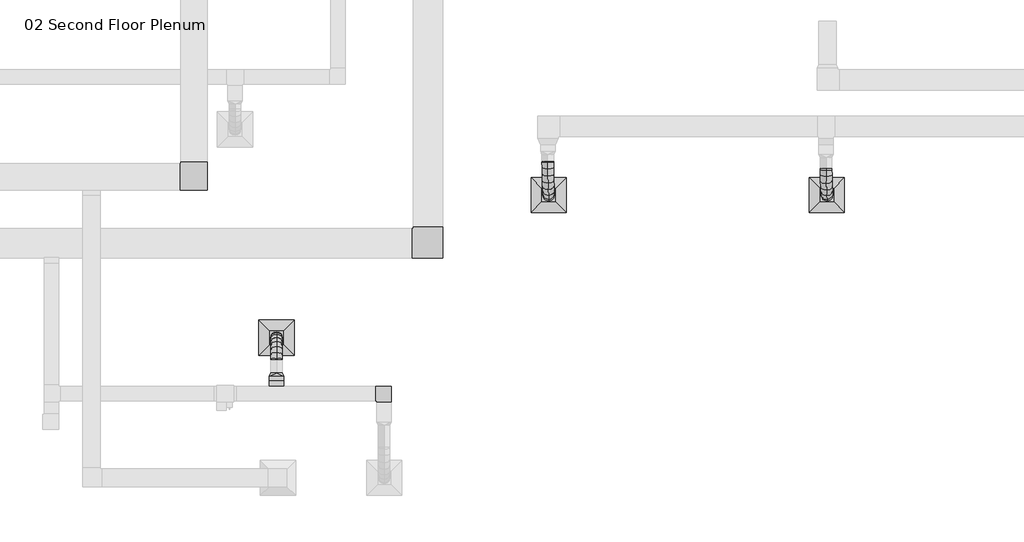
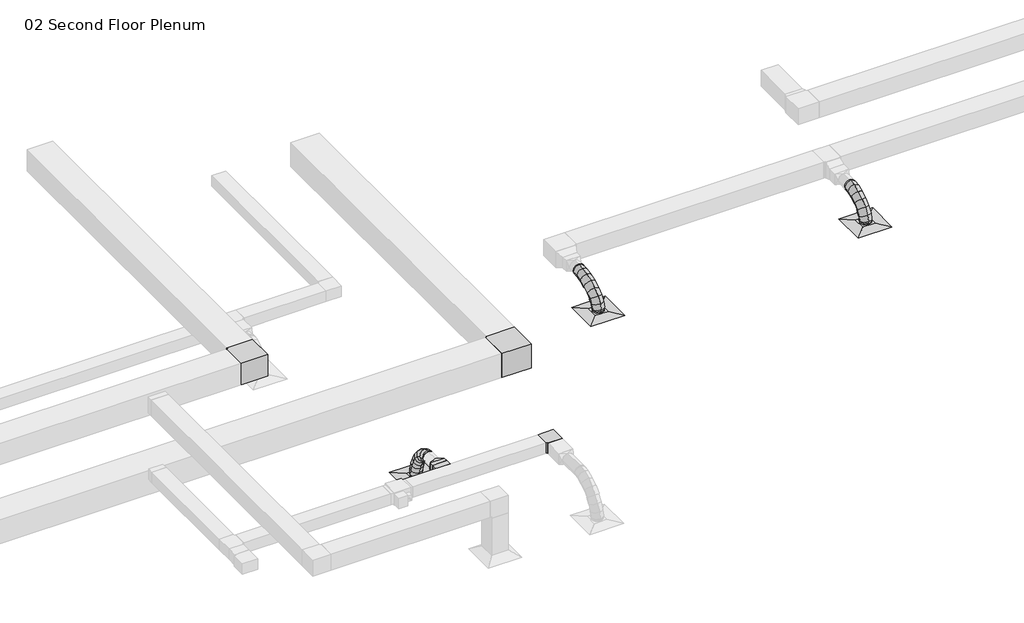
# One storey, part 3 of 12: 5 duct fittings, 4 duct segments, 3 air terminals.
"""IFC4 building model written with IfcOpenShell, lengths in millimetres."""

from ifc_helpers import new_model, si_unit, frame, origin, place, context, project, spatial, polyline, circle_curve, ellipse_curve, outline, extrude, transform, mapped, element, save
from ifc_brep_helpers import plane_surface, cylinder_surface, advanced_brep
from components import supply_diffuser_rectangular_face_round_neck_d30_6390248a, supply_diffuser_rectangular_face_round_neck_d30_79c6f163, rectangular_elbow_mitered_standard_f09b78ec, rectangular_elbow_mitered_standard_946096ac, rectangular_elbow_mitered_standard_3a774ab6, rectangular_takeoff_standard_c54ab2d1, rectangular_to_round_transition_angle_45_degree_e9430680

model = new_model("IFC4")

# Units and contexts
model_context = context("Model", 3, world=origin())
ifc_project = project(units=[si_unit("LENGTHUNIT", "METRE", prefix="MILLI")], contexts=[model_context])

# Site, building, storey
site = spatial("IfcSite", under=ifc_project)
building = spatial("IfcBuilding", under=site)
storey = spatial("IfcBuildingStorey", under=building, Name="02 Second Floor Plenum", Elevation=3048.0)

# Air terminals
placement = place(None, origin())
supply_diffuser_rectangular_face_round_neck_d30_shape = supply_diffuser_rectangular_face_round_neck_d30_6390248a(model_context)
element("IfcAirTerminal", 1, ObjectType="Supply Diffuser - Rectangular Face Round Neck : D30_SupplyDiffuser_24x24 8 Neck", at=placement, inside=storey, context=model_context, shape_type="MappedRepresentation", body=[
    mapped(supply_diffuser_rectangular_face_round_neck_d30_shape, transform((-6540.6685181, -2999.7828325, 3048.0), x_axis=(1.0, 0.0, 0.0), y_axis=(0.0, 1.0, 0.0), z_axis=(0.0, 0.0, 1.0))),
])
supply_diffuser_rectangular_face_round_neck_d30_2_shape = supply_diffuser_rectangular_face_round_neck_d30_79c6f163(model_context)
element("IfcAirTerminal", 2, ObjectType="Supply Diffuser - Rectangular Face Round Neck : D30_SupplyDiffuser_24x24 8 Neck", at=placement, inside=storey, context=model_context, shape_type="MappedRepresentation", body=[
    mapped(supply_diffuser_rectangular_face_round_neck_d30_2_shape, transform((3026.67093, -520.1078325, 3048.0), x_axis=(1.0, 0.0, 0.0), y_axis=(0.0, 1.0, 0.0), z_axis=(0.0, 0.0, 1.0))),
])
element("IfcAirTerminal", 3, ObjectType="Supply Diffuser - Rectangular Face Round Neck : D30_SupplyDiffuser_24x24 8 Neck", at=placement, inside=storey, context=model_context, shape_type="MappedRepresentation", body=[
    mapped(supply_diffuser_rectangular_face_round_neck_d30_2_shape, transform((-1812.02907, -520.1078325, 3048.0), x_axis=(1.0, 0.0, 0.0), y_axis=(0.0, 1.0, 0.0), z_axis=(0.0, 0.0, 1.0))),
])

# Duct fittings
rectangular_elbow_mitered_standard_shape = rectangular_elbow_mitered_standard_f09b78ec(model_context)
element("IfcDuctFitting", 4, ObjectType="Rectangular Elbow - Mitered : Standard", at=placement, inside=storey, context=model_context, shape_type="MappedRepresentation", body=[
    mapped(rectangular_elbow_mitered_standard_shape, transform((-4670.9653729, -3975.0664214, 3657.6), x_axis=(0.0, 1.0, 0.0), y_axis=(-1.0, 0.0, 0.0), z_axis=(0.0, 0.0, 1.0))),
])
rectangular_elbow_mitered_standard_2_shape = rectangular_elbow_mitered_standard_946096ac(model_context)
element("IfcDuctFitting", 5, ObjectType="Rectangular Elbow - Mitered : Standard", at=placement, inside=storey, context=model_context, shape_type="MappedRepresentation", body=[
    mapped(rectangular_elbow_mitered_standard_2_shape, transform((-3908.5142705, -1355.9265825, 3505.2), x_axis=(1.0, 0.0, 0.0), y_axis=(0.0, 1.0, 0.0), z_axis=(0.0, 0.0, 1.0))),
])
rectangular_elbow_mitered_standard_3_shape = rectangular_elbow_mitered_standard_3a774ab6(model_context)
element("IfcDuctFitting", 6, ObjectType="Rectangular Elbow - Mitered : Standard", at=placement, inside=storey, context=model_context, shape_type="MappedRepresentation", body=[
    mapped(rectangular_elbow_mitered_standard_3_shape, transform((-7972.5142705, -201.3156743, 4038.6), x_axis=(1.0, 0.0, 0.0), y_axis=(0.0, 1.0, 0.0), z_axis=(0.0, 0.0, 1.0))),
])
rectangular_takeoff_standard_shape = rectangular_takeoff_standard_c54ab2d1(model_context)
element("IfcDuctFitting", 7, ObjectType="Rectangular Takeoff : Standard", at=placement, inside=storey, context=model_context, shape_type="MappedRepresentation", body=[
    mapped(rectangular_takeoff_standard_shape, transform((-6540.6685181, -3848.0664214, 3657.6), x_axis=(0.0, 1.0, 0.0), y_axis=(1.0, 0.0, 0.0), z_axis=(0.0, 0.0, -1.0))),
])
rectangular_to_round_transition_angle_45_degree_shape = rectangular_to_round_transition_angle_45_degree_e9430680(model_context)
element("IfcDuctFitting", 8, ObjectType="Rectangular to Round Transition - Angle : 45 Degree", at=placement, inside=storey, context=model_context, shape_type="MappedRepresentation", body=[
    mapped(rectangular_to_round_transition_angle_45_degree_shape, transform((-6540.6685181, -3670.2664214, 3657.6), x_axis=(0.0, 1.0, 0.0), y_axis=(-1.0, 0.0, 0.0), z_axis=(0.0, 0.0, 1.0))),
])

# Duct segments
element("IfcDuctSegment", 9, ObjectType="Flex - Round", at=placement, inside=storey, context=model_context, shape_type="AdvancedBrep", body=[
    advanced_brep(
    [(-1723.12907, 65.9206694, 3505.2), (-1824.72907, 65.9206694, 3403.6), (-1926.32907, 65.9206694, 3505.2), (-1824.72907, 65.9206694, 3606.8), (-1723.12907, 56.9454167, 3505.2), (-1824.72907, 61.7055091, 3403.6), (-1926.32907, 56.2164159, 3505.2), (-1824.72907, 51.4563235, 3606.8), (-1710.4563242, -517.7546809, 3101.975), (-1809.6759184, -621.6805783, 3101.975), (-1913.6018157, -522.4609841, 3101.975), (-1814.3822216, -418.5350868, 3101.975), (-1722.4313128, -40.0515406, 3495.3900757), (-1824.1158959, -23.5333381, 3394.9792488), (-1925.6198301, -42.3767846, 3495.2286374), (-1823.9352469, -58.8949871, 3595.6394643), (-1720.6283417, -152.1060425, 3467.0039918), (-1822.5324897, -121.9419056, 3370.0500063), (-1923.7942297, -155.8376956, 3466.4862765), (-1821.8900818, -186.0018324, 3563.4402621), (-1718.1570723, -262.0076299, 3421.6020757), (-1820.3687228, -218.1683258, 3330.2974971), (-1921.3039831, -266.5832308, 3420.7357134), (-1819.0923326, -310.4225349, 3512.040292), (-1715.4596868, -361.635777, 3360.800032), (-1818.0786161, -302.7535984, 3278.6759666), (-1918.5955377, -366.6198768, 3359.684367), (-1815.9766084, -425.5020554, 3441.8084325), (-1712.979699, -442.8947524, 3286.2076099), (-1816.125392, -366.7527002, 3219.9274038), (-1916.1140094, -447.929326, 3285.045612), (-1812.9683165, -524.0713782, 3351.325818), (-1711.162406, -497.6643952, 3199.4210725), (-1814.829355, -405.8127093, 3158.0339393), (-1914.302731, -502.5177, 3198.5463085), (-1810.635782, -594.3693859, 3239.9334417), (-1710.4563242, -517.7546809, 3122.6753967), (-1814.3822216, -418.5350868, 3109.4339606), (-1913.6018157, -522.4609841, 3122.3621843), (-1809.6759184, -621.6805783, 3135.6036204)],
    [
        (0, 1, circle_curve(frame((-1824.72907, 65.9206694, 3505.2), z_axis=(0.0, 1.0, 0.0), x_axis=(1.0, 0.0, 0.0)), 101.6)),
        (1, 2, circle_curve(frame((-1824.72907, 65.9206694, 3505.2), z_axis=(0.0, 1.0, 0.0), x_axis=(1.0, 0.0, 0.0)), 101.6)),
        (2, 3, circle_curve(frame((-1824.72907, 65.9206694, 3505.2), z_axis=(0.0, 1.0, 0.0), x_axis=(1.0, 0.0, 0.0)), 101.6)),
        (3, 0, circle_curve(frame((-1824.72907, 65.9206694, 3505.2), z_axis=(0.0, 1.0, 0.0), x_axis=(1.0, 0.0, 0.0)), 101.6)),
        (0, 4),
        (4, 5, ellipse_curve(frame((-1824.72907, 56.5809163, 3505.2), z_axis=(-0.0035830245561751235, 0.9987239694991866, 0.0503745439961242), x_axis=(0.0708579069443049, 0.050501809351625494, -0.9962071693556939)), 101.7298103, 101.6)),
        (5, 1),
        (5, 6, ellipse_curve(frame((-1824.72907, 56.5809163, 3505.2), z_axis=(-0.0035830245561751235, 0.9987239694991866, 0.0503745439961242), x_axis=(0.0708579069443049, 0.050501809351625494, -0.9962071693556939)), 101.7298103, 101.6)),
        (6, 2),
        (6, 7, ellipse_curve(frame((-1824.72907, 56.5809163, 3505.2), z_axis=(-0.0035830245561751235, 0.9987239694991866, 0.0503745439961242), x_axis=(0.0708579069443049, 0.050501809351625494, -0.9962071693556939)), 101.7298103, 101.6)),
        (7, 3),
        (7, 4, ellipse_curve(frame((-1824.72907, 56.5809163, 3505.2), z_axis=(-0.0035830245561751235, 0.9987239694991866, 0.0503745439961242), x_axis=(0.0708579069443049, 0.050501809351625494, -0.9962071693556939)), 101.7298103, 101.6)),
        (8, 9, circle_curve(frame((-1812.02907, -520.1078325, 3101.975), z_axis=(0.0, 0.0, -1.0), x_axis=(0.9997317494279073, 0.023160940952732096, 0.0)), 101.6)),
        (9, 10, circle_curve(frame((-1812.02907, -520.1078325, 3101.975), z_axis=(0.0, 0.0, -1.0), x_axis=(0.9997317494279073, 0.023160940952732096, 0.0)), 101.6)),
        (10, 11, circle_curve(frame((-1812.02907, -520.1078325, 3101.975), z_axis=(0.0, 0.0, -1.0), x_axis=(0.9997317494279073, 0.023160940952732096, 0.0)), 101.6)),
        (11, 8, circle_curve(frame((-1812.02907, -520.1078325, 3101.975), z_axis=(0.0, 0.0, -1.0), x_axis=(0.9997317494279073, 0.023160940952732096, 0.0)), 101.6)),
        (4, 12),
        (12, 13, ellipse_curve(frame((-1824.0255714, -41.2141626, 3495.3093566), z_axis=(-0.011407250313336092, 0.9847588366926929, 0.17355088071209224), x_axis=(0.05724654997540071, 0.17392066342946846, -0.9830943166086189)), 101.8770918, 101.6)),
        (13, 5),
        (13, 14, ellipse_curve(frame((-1824.0255714, -41.2141626, 3495.3093566), z_axis=(-0.011407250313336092, 0.9847588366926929, 0.17355088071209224), x_axis=(0.05724654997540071, 0.17392066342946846, -0.9830943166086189)), 101.8770918, 101.6)),
        (14, 6),
        (14, 15, ellipse_curve(frame((-1824.0255714, -41.2141626, 3495.3093566), z_axis=(-0.011407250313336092, 0.9847588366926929, 0.17355088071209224), x_axis=(0.05724654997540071, 0.17392066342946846, -0.9830943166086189)), 101.8770918, 101.6)),
        (15, 7),
        (15, 12, ellipse_curve(frame((-1824.0255714, -41.2141626, 3495.3093566), z_axis=(-0.011407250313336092, 0.9847588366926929, 0.17355088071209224), x_axis=(0.05724654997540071, 0.17392066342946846, -0.9830943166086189)), 101.8770918, 101.6)),
        (12, 16),
        (16, 17, ellipse_curve(frame((-1822.2112857, -153.971869, 3466.7451342), z_axis=(-0.018233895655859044, 0.9490998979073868, 0.3144469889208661), x_axis=(0.03608996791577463, 0.31491909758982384, -0.9484321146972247)), 101.8629094, 101.6)),
        (17, 13),
        (17, 18, ellipse_curve(frame((-1822.2112857, -153.971869, 3466.7451342), z_axis=(-0.018233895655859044, 0.9490998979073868, 0.3144469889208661), x_axis=(0.03608996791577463, 0.31491909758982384, -0.9484321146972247)), 101.8629094, 101.6)),
        (18, 14),
        (18, 19, ellipse_curve(frame((-1822.2112857, -153.971869, 3466.7451342), z_axis=(-0.018233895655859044, 0.9490998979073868, 0.3144469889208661), x_axis=(0.03608996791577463, 0.31491909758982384, -0.9484321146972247)), 101.8629094, 101.6)),
        (19, 15),
        (19, 16, ellipse_curve(frame((-1822.2112857, -153.971869, 3466.7451342), z_axis=(-0.018233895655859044, 0.9490998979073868, 0.3144469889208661), x_axis=(0.03608996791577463, 0.31491909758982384, -0.9484321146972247)), 101.8629094, 101.6)),
        (16, 20),
        (20, 21, ellipse_curve(frame((-1819.7305277, -264.2954303, 3421.1688946), z_axis=(-0.02200836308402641, 0.8914185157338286, 0.45264628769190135), x_axis=(0.014911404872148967, 0.45299827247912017, -0.8913866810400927)), 101.9105316, 101.6)),
        (21, 17),
        (21, 22, ellipse_curve(frame((-1819.7305277, -264.2954303, 3421.1688946), z_axis=(-0.02200836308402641, 0.8914185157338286, 0.45264628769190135), x_axis=(0.014911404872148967, 0.45299827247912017, -0.8913866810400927)), 101.9105316, 101.6)),
        (22, 18),
        (22, 23, ellipse_curve(frame((-1819.7305277, -264.2954303, 3421.1688946), z_axis=(-0.02200836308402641, 0.8914185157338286, 0.45264628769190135), x_axis=(0.014911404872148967, 0.45299827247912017, -0.8913866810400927)), 101.9105316, 101.6)),
        (23, 19),
        (23, 20, ellipse_curve(frame((-1819.7305277, -264.2954303, 3421.1688946), z_axis=(-0.02200836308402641, 0.8914185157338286, 0.45264628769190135), x_axis=(0.014911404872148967, 0.45299827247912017, -0.8913866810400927)), 101.9105316, 101.6)),
        (20, 24),
        (24, 25, ellipse_curve(frame((-1817.0276122, -364.1278269, 3360.2421995), z_axis=(-0.022899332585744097, 0.7987093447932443, 0.6012811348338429), x_axis=(-0.003226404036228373, 0.6013766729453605, -0.7989591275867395)), 102.0830831, 101.6)),
        (25, 21),
        (25, 26, ellipse_curve(frame((-1817.0276122, -364.1278269, 3360.2421995), z_axis=(-0.022899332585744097, 0.7987093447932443, 0.6012811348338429), x_axis=(-0.003226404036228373, 0.6013766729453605, -0.7989591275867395)), 102.0830831, 101.6)),
        (26, 22),
        (26, 27, ellipse_curve(frame((-1817.0276122, -364.1278269, 3360.2421995), z_axis=(-0.022899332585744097, 0.7987093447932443, 0.6012811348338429), x_axis=(-0.003226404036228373, 0.6013766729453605, -0.7989591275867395)), 102.0830831, 101.6)),
        (27, 23),
        (27, 24, ellipse_curve(frame((-1817.0276122, -364.1278269, 3360.2421995), z_axis=(-0.022899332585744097, 0.7987093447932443, 0.6012811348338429), x_axis=(-0.003226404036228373, 0.6013766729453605, -0.7989591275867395)), 102.0830831, 101.6)),
        (24, 28),
        (28, 29, ellipse_curve(frame((-1814.5468542, -445.4120392, 3285.6266109), z_axis=(-0.020269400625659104, 0.6406750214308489, 0.767544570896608), x_axis=(-0.018048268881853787, 0.7673427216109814, -0.6409831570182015)), 102.4996123, 101.6)),
        (29, 25),
        (29, 30, ellipse_curve(frame((-1814.5468542, -445.4120392, 3285.6266109), z_axis=(-0.020269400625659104, 0.6406750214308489, 0.767544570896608), x_axis=(-0.018048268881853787, 0.7673427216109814, -0.6409831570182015)), 102.4996123, 101.6)),
        (30, 26),
        (30, 31, ellipse_curve(frame((-1814.5468542, -445.4120392, 3285.6266109), z_axis=(-0.020269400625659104, 0.6406750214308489, 0.767544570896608), x_axis=(-0.018048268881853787, 0.7673427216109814, -0.6409831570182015)), 102.4996123, 101.6)),
        (31, 27),
        (31, 28, ellipse_curve(frame((-1814.5468542, -445.4120392, 3285.6266109), z_axis=(-0.020269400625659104, 0.6406750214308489, 0.767544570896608), x_axis=(-0.018048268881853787, 0.7673427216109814, -0.6409831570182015)), 102.4996123, 101.6)),
        (28, 32),
        (32, 33, ellipse_curve(frame((-1812.7325685, -500.0910476, 3198.9836905), z_axis=(-0.013461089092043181, 0.39810403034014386, 0.9172415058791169), x_axis=(-0.028792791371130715, 0.916789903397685, -0.3983305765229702)), 102.8090539, 101.6)),
        (33, 29),
        (33, 34, ellipse_curve(frame((-1812.7325685, -500.0910476, 3198.9836905), z_axis=(-0.013461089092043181, 0.39810403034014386, 0.9172415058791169), x_axis=(-0.028792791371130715, 0.916789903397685, -0.3983305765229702)), 102.8090539, 101.6)),
        (34, 30),
        (34, 35, ellipse_curve(frame((-1812.7325685, -500.0910476, 3198.9836905), z_axis=(-0.013461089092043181, 0.39810403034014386, 0.9172415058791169), x_axis=(-0.028792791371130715, 0.916789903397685, -0.3983305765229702)), 102.8090539, 101.6)),
        (35, 31),
        (35, 32, ellipse_curve(frame((-1812.7325685, -500.0910476, 3198.9836905), z_axis=(-0.013461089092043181, 0.39810403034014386, 0.9172415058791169), x_axis=(-0.028792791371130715, 0.916789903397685, -0.3983305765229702)), 102.8090539, 101.6)),
        (32, 36),
        (36, 37, ellipse_curve(frame((-1812.02907, -520.1078325, 3122.5187905), z_axis=(-0.004486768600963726, 0.12766292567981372, 0.9918074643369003), x_axis=(-0.03483599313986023, 0.9911954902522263, -0.12774174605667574)), 102.4392371, 101.6)),
        (37, 33),
        (37, 38, ellipse_curve(frame((-1812.02907, -520.1078325, 3122.5187905), z_axis=(-0.004486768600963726, 0.12766292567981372, 0.9918074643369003), x_axis=(-0.03483599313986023, 0.9911954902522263, -0.12774174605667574)), 102.4392371, 101.6)),
        (38, 34),
        (38, 39, ellipse_curve(frame((-1812.02907, -520.1078325, 3122.5187905), z_axis=(-0.004486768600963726, 0.12766292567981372, 0.9918074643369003), x_axis=(-0.03483599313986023, 0.9911954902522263, -0.12774174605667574)), 102.4392371, 101.6)),
        (39, 35),
        (39, 36, ellipse_curve(frame((-1812.02907, -520.1078325, 3122.5187905), z_axis=(-0.004486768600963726, 0.12766292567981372, 0.9918074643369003), x_axis=(-0.03483599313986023, 0.9911954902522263, -0.12774174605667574)), 102.4392371, 101.6)),
        (36, 8),
        (11, 37),
        (10, 38),
        (9, 39),
    ],
    [
        plane_surface(frame((-1926.32907, 65.9206694, 3505.2), z_axis=(0.0, 1.0, 0.0), x_axis=(0.0, 0.0, -1.0))),
        cylinder_surface(frame((-1824.72907, 65.9206694, 3505.2), z_axis=(0.0, 1.0, 0.0), x_axis=(1.0, 0.0, 0.0)), 101.6),
        plane_surface(frame((-1812.02907, -621.7078325, 3101.975), z_axis=(0.0, 0.0, -1.0), x_axis=(-1.0, 0.0, 0.0))),
        cylinder_surface(frame((-1824.72907, 56.5809163, 3505.2), z_axis=(-0.007156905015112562, 0.9948991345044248, 0.10062052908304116), x_axis=(0.9999743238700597, 0.007156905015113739, 0.00036098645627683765)), 101.6),
        cylinder_surface(frame((-1824.0255714, -41.2141626, 3495.3093566), z_axis=(-0.015595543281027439, 0.9692617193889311, 0.24553716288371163), x_axis=(0.9998763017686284, 0.015618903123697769, 0.001852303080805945)), 101.6),
        cylinder_surface(frame((-1822.2112857, -153.971869, 3466.7451342), z_axis=(-0.020778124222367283, 0.9240387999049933, 0.3817336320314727), x_axis=(0.9997732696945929, 0.020981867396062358, 0.003629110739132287)), 101.6),
        cylinder_surface(frame((-1819.7305277, -264.2954303, 3421.1688946), z_axis=(-0.023104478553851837, 0.8533657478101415, 0.5208004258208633), x_axis=(0.9997003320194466, 0.023936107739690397, 0.005129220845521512)), 101.6),
        cylinder_surface(frame((-1817.0276122, -364.1278269, 3360.2421995), z_axis=(-0.02247745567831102, 0.7364935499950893, 0.6760710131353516), x_axis=(0.9996687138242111, 0.02503892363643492, 0.005959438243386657)), 101.6),
        cylinder_surface(frame((-1814.5468542, -445.4120392, 3285.6266109), z_axis=(-0.017705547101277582, 0.5336104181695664, 0.8455450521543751), x_axis=(0.9996830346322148, 0.02458627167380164, 0.0054171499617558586)), 101.6),
        cylinder_surface(frame((-1812.7325685, -500.0910476, 3198.9836905), z_axis=(-0.008900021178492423, 0.2532340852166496, 0.9673640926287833), x_axis=(0.9997180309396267, 0.023551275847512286, 0.00303249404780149)), 101.6),
        cylinder_surface(frame((-1812.02907, -520.1078325, 3122.5187905), z_axis=(0.0, 0.0, 1.0), x_axis=(0.9997317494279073, 0.023160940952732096, 0.0)), 101.6),
    ],
    [
        (0, [[1, 2, 3, 4]]),
        (1, [[-1, 5, 6, 7]]),
        (1, [[-2, -7, 8, 9]]),
        (1, [[-3, -9, 10, 11]]),
        (1, [[-4, -11, 12, -5]]),
        (2, [[13, 14, 15, 16]]),
        (3, [[-6, 17, 18, 19]]),
        (3, [[-8, -19, 20, 21]]),
        (3, [[-10, -21, 22, 23]]),
        (3, [[-12, -23, 24, -17]]),
        (4, [[-18, 25, 26, 27]]),
        (4, [[-20, -27, 28, 29]]),
        (4, [[-22, -29, 30, 31]]),
        (4, [[-24, -31, 32, -25]]),
        (5, [[-26, 33, 34, 35]]),
        (5, [[-28, -35, 36, 37]]),
        (5, [[-30, -37, 38, 39]]),
        (5, [[-32, -39, 40, -33]]),
        (6, [[-34, 41, 42, 43]]),
        (6, [[-36, -43, 44, 45]]),
        (6, [[-38, -45, 46, 47]]),
        (6, [[-40, -47, 48, -41]]),
        (7, [[-42, 49, 50, 51]]),
        (7, [[-44, -51, 52, 53]]),
        (7, [[-46, -53, 54, 55]]),
        (7, [[-48, -55, 56, -49]]),
        (8, [[-50, 57, 58, 59]]),
        (8, [[-52, -59, 60, 61]]),
        (8, [[-54, -61, 62, 63]]),
        (8, [[-56, -63, 64, -57]]),
        (9, [[-58, 65, 66, 67]]),
        (9, [[-60, -67, 68, 69]]),
        (9, [[-62, -69, 70, 71]]),
        (9, [[-64, -71, 72, -65]]),
        (10, [[-66, 73, -16, 74]]),
        (10, [[-68, -74, -15, 75]]),
        (10, [[-70, -75, -14, 76]]),
        (10, [[-72, -76, -13, -73]]),
    ],
),
])
element("IfcDuctSegment", 10, ObjectType="Flex - Round", at=placement, inside=storey, context=model_context, shape_type="AdvancedBrep", body=[
    advanced_brep(
    [(3113.8148996, -61.0793306, 3505.2), (3012.2148996, -61.0793306, 3403.6), (2910.6148996, -61.0793306, 3505.2), (3012.2148996, -61.0793306, 3606.8), (3113.8148996, -75.5580526, 3505.2), (3012.2148996, -67.3200121, 3403.6), (2910.6148996, -76.762289, 3505.2), (3012.2148996, -85.0003296, 3606.8), (3128.2244262, -517.0341678, 3101.975), (3029.7445947, -621.6613287, 3101.975), (2925.1174339, -523.1814972, 3101.975), (3023.5972653, -418.5543363, 3101.975), (3114.8711778, -163.9971958, 3489.6919695), (3013.0496484, -137.2111339, 3391.3444126), (2911.7002554, -167.6360159, 3489.265059), (3013.5217848, -194.4220778, 3587.6126159), (3117.5239239, -267.8570621, 3446.5393821), (3015.2139655, -221.9481125, 3356.1371665), (2914.4015947, -273.3983977, 3445.3219982), (3016.7115531, -319.3073473, 3535.7242138), (3120.9872244, -363.750204, 3380.9095721), (3018.0665771, -300.9322747, 3302.0799581), (2917.8986052, -370.2249133, 3379.053382), (3020.8192525, -433.0428427, 3457.882996), (3124.4634029, -443.0428775, 3298.0786837), (3020.8476665, -364.3697563, 3235.8117553), (2921.3827377, -449.6990187, 3296.0329657), (3024.9984741, -528.3721399, 3358.299894), (3127.1469597, -497.0557958, 3203.3716471), (3022.8670958, -405.0155399, 3164.5428471), (2924.0532662, -503.4497123, 3201.7857178), (3028.3331301, -595.4899682, 3240.6145178), (3128.2244262, -517.0341678, 3121.9653393), (3023.5972653, -418.5543363, 3109.3760183), (2925.1174339, -523.1814972, 3121.3841838), (3029.7445947, -621.6613287, 3133.9735047)],
    [
        (0, 1, circle_curve(frame((3012.2148996, -61.0793306, 3505.2), z_axis=(0.0, 1.0, 0.0), x_axis=(1.0, 0.0, 0.0)), 101.6)),
        (1, 2, circle_curve(frame((3012.2148996, -61.0793306, 3505.2), z_axis=(0.0, 1.0, 0.0), x_axis=(1.0, 0.0, 0.0)), 101.6)),
        (2, 3, circle_curve(frame((3012.2148996, -61.0793306, 3505.2), z_axis=(0.0, 1.0, 0.0), x_axis=(1.0, 0.0, 0.0)), 101.6)),
        (3, 0, circle_curve(frame((3012.2148996, -61.0793306, 3505.2), z_axis=(0.0, 1.0, 0.0), x_axis=(1.0, 0.0, 0.0)), 101.6)),
        (0, 4),
        (4, 5, ellipse_curve(frame((3012.2148996, -76.1601708, 3505.2), z_axis=(-0.005903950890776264, 0.9962186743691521, 0.08668042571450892), x_axis=(0.06769729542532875, 0.08688125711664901, -0.9939158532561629)), 101.9856409, 101.6)),
        (5, 1),
        (5, 6, ellipse_curve(frame((3012.2148996, -76.1601708, 3505.2), z_axis=(-0.005903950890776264, 0.9962186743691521, 0.08668042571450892), x_axis=(0.06769729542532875, 0.08688125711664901, -0.9939158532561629)), 101.9856409, 101.6)),
        (6, 2),
        (6, 7, ellipse_curve(frame((3012.2148996, -76.1601708, 3505.2), z_axis=(-0.005903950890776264, 0.9962186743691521, 0.08668042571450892), x_axis=(0.06769729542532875, 0.08688125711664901, -0.9939158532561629)), 101.9856409, 101.6)),
        (7, 3),
        (7, 4, ellipse_curve(frame((3012.2148996, -76.1601708, 3505.2), z_axis=(-0.005903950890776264, 0.9962186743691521, 0.08668042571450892), x_axis=(0.06769729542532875, 0.08688125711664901, -0.9939158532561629)), 101.9856409, 101.6)),
        (8, 9, circle_curve(frame((3026.67093, -520.1078325, 3101.975), z_axis=(0.0, 0.0, -1.0), x_axis=(0.9995422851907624, 0.030252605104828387, 0.0)), 101.6)),
        (9, 10, circle_curve(frame((3026.67093, -520.1078325, 3101.975), z_axis=(0.0, 0.0, -1.0), x_axis=(0.9995422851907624, 0.030252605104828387, 0.0)), 101.6)),
        (10, 11, circle_curve(frame((3026.67093, -520.1078325, 3101.975), z_axis=(0.0, 0.0, -1.0), x_axis=(0.9995422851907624, 0.030252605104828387, 0.0)), 101.6)),
        (11, 8, circle_curve(frame((3026.67093, -520.1078325, 3101.975), z_axis=(0.0, 0.0, -1.0), x_axis=(0.9995422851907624, 0.030252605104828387, 0.0)), 101.6)),
        (4, 12),
        (12, 13, ellipse_curve(frame((3013.2857166, -165.8166058, 3489.4785143), z_axis=(-0.01777962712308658, 0.9598813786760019, 0.2798421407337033), x_axis=(0.05370485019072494, 0.2803991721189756, -0.9583799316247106)), 102.2205087, 101.6)),
        (13, 5),
        (13, 14, ellipse_curve(frame((3013.2857166, -165.8166058, 3489.4785143), z_axis=(-0.01777962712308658, 0.9598813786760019, 0.2798421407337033), x_axis=(0.05370485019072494, 0.2803991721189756, -0.9583799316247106)), 102.2205087, 101.6)),
        (14, 6),
        (14, 15, ellipse_curve(frame((3013.2857166, -165.8166058, 3489.4785143), z_axis=(-0.01777962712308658, 0.9598813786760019, 0.2798421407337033), x_axis=(0.05370485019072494, 0.2803991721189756, -0.9583799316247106)), 102.2205087, 101.6)),
        (15, 7),
        (15, 12, ellipse_curve(frame((3013.2857166, -165.8166058, 3489.4785143), z_axis=(-0.01777962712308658, 0.9598813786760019, 0.2798421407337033), x_axis=(0.05370485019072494, 0.2803991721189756, -0.9583799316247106)), 102.2205087, 101.6)),
        (12, 16),
        (16, 17, ellipse_curve(frame((3015.9627593, -270.6277299, 3445.9306901), z_axis=(-0.02682836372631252, 0.8787117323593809, 0.47659829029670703), x_axis=(0.030142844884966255, 0.4772642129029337, -0.8782427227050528)), 102.1435264, 101.6)),
        (17, 13),
        (17, 18, ellipse_curve(frame((3015.9627593, -270.6277299, 3445.9306901), z_axis=(-0.02682836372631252, 0.8787117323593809, 0.47659829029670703), x_axis=(0.030142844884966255, 0.4772642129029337, -0.8782427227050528)), 102.1435264, 101.6)),
        (18, 14),
        (18, 19, ellipse_curve(frame((3015.9627593, -270.6277299, 3445.9306901), z_axis=(-0.02682836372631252, 0.8787117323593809, 0.47659829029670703), x_axis=(0.030142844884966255, 0.4772642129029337, -0.8782427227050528)), 102.1435264, 101.6)),
        (19, 15),
        (19, 16, ellipse_curve(frame((3015.9627593, -270.6277299, 3445.9306901), z_axis=(-0.02682836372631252, 0.8787117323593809, 0.47659829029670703), x_axis=(0.030142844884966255, 0.4772642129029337, -0.8782427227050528)), 102.1435264, 101.6)),
        (16, 20),
        (20, 21, ellipse_curve(frame((3019.4429148, -366.9875587, 3379.9814771), z_axis=(-0.030207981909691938, 0.7621052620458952, 0.6467480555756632), x_axis=(0.0024722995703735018, 0.6470983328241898, -0.7624025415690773)), 102.1463173, 101.6)),
        (21, 17),
        (21, 22, ellipse_curve(frame((3019.4429148, -366.9875587, 3379.9814771), z_axis=(-0.030207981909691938, 0.7621052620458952, 0.6467480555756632), x_axis=(0.0024722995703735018, 0.6470983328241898, -0.7624025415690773)), 102.1463173, 101.6)),
        (22, 18),
        (22, 23, ellipse_curve(frame((3019.4429148, -366.9875587, 3379.9814771), z_axis=(-0.030207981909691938, 0.7621052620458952, 0.6467480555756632), x_axis=(0.0024722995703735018, 0.6470983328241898, -0.7624025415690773)), 102.1463173, 101.6)),
        (23, 19),
        (23, 20, ellipse_curve(frame((3019.4429148, -366.9875587, 3379.9814771), z_axis=(-0.030207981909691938, 0.7621052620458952, 0.6467480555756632), x_axis=(0.0024722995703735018, 0.6470983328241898, -0.7624025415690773)), 102.1463173, 101.6)),
        (20, 24),
        (24, 25, ellipse_curve(frame((3022.9230703, -446.3709481, 3297.0558247), z_axis=(-0.027661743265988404, 0.5977143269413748, 0.8012318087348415), x_axis=(-0.023282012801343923, 0.8009358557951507, -0.5982973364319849)), 102.3686487, 101.6)),
        (25, 21),
        (25, 26, ellipse_curve(frame((3022.9230703, -446.3709481, 3297.0558247), z_axis=(-0.027661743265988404, 0.5977143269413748, 0.8012318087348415), x_axis=(-0.023282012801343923, 0.8009358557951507, -0.5982973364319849)), 102.3686487, 101.6)),
        (26, 22),
        (26, 27, ellipse_curve(frame((3022.9230703, -446.3709481, 3297.0558247), z_axis=(-0.027661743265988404, 0.5977143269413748, 0.8012318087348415), x_axis=(-0.023282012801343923, 0.8009358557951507, -0.5982973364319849)), 102.3686487, 101.6)),
        (27, 23),
        (27, 24, ellipse_curve(frame((3022.9230703, -446.3709481, 3297.0558247), z_axis=(-0.027661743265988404, 0.5977143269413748, 0.8012318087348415), x_axis=(-0.023282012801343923, 0.8009358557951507, -0.5982973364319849)), 102.3686487, 101.6)),
        (24, 28),
        (28, 29, ellipse_curve(frame((3025.600113, -500.2527541, 3202.5786825), z_axis=(-0.018911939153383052, 0.37035979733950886, 0.9286958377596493), x_axis=(-0.04243733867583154, 0.9277275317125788, -0.3708378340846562)), 102.5883645, 101.6)),
        (29, 25),
        (29, 30, ellipse_curve(frame((3025.600113, -500.2527541, 3202.5786825), z_axis=(-0.018911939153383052, 0.37035979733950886, 0.9286958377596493), x_axis=(-0.04243733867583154, 0.9277275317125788, -0.3708378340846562)), 102.5883645, 101.6)),
        (30, 26),
        (30, 31, ellipse_curve(frame((3025.600113, -500.2527541, 3202.5786825), z_axis=(-0.018911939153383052, 0.37035979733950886, 0.9286958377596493), x_axis=(-0.04243733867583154, 0.9277275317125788, -0.3708378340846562)), 102.5883645, 101.6)),
        (31, 27),
        (31, 28, ellipse_curve(frame((3025.600113, -500.2527541, 3202.5786825), z_axis=(-0.018911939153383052, 0.37035979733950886, 0.9286958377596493), x_axis=(-0.04243733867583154, 0.9277275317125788, -0.3708378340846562)), 102.5883645, 101.6)),
        (28, 32),
        (32, 33, ellipse_curve(frame((3026.67093, -520.1078325, 3121.6747615), z_axis=(-0.006473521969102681, 0.12003197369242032, 0.9927489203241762), x_axis=(-0.05346288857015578, 0.991308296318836, -0.12020641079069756)), 102.3420907, 101.6)),
        (33, 29),
        (33, 34, ellipse_curve(frame((3026.67093, -520.1078325, 3121.6747615), z_axis=(-0.006473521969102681, 0.12003197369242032, 0.9927489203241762), x_axis=(-0.05346288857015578, 0.991308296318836, -0.12020641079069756)), 102.3420907, 101.6)),
        (34, 30),
        (34, 35, ellipse_curve(frame((3026.67093, -520.1078325, 3121.6747615), z_axis=(-0.006473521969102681, 0.12003197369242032, 0.9927489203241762), x_axis=(-0.05346288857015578, 0.991308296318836, -0.12020641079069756)), 102.3420907, 101.6)),
        (35, 31),
        (35, 32, ellipse_curve(frame((3026.67093, -520.1078325, 3121.6747615), z_axis=(-0.006473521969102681, 0.12003197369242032, 0.9927489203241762), x_axis=(-0.05346288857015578, 0.991308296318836, -0.12020641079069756)), 102.3420907, 101.6)),
        (32, 8),
        (11, 33),
        (10, 34),
        (9, 35),
    ],
    [
        plane_surface(frame((2910.6148996, -61.0793306, 3505.2), z_axis=(0.0, 1.0, 0.0), x_axis=(0.0, 0.0, -1.0))),
        cylinder_surface(frame((3012.2148996, -61.0793306, 3505.2), z_axis=(0.0, 1.0, 0.0), x_axis=(1.0, 0.0, 0.0)), 101.6),
        plane_surface(frame((3026.67093, -621.7078325, 3101.975), z_axis=(0.0, 0.0, -1.0), x_axis=(-1.0, 0.0, 0.0))),
        cylinder_surface(frame((3012.2148996, -76.1601708, 3505.2), z_axis=(-0.01176325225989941, 0.9849032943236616, 0.1727053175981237), x_axis=(0.9999302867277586, 0.01176325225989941, 0.0010235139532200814)), 101.6),
        cylinder_surface(frame((3013.2857166, -165.8166058, 3489.4785143), z_axis=(-0.023580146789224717, 0.9232059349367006, 0.3835815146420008), x_axis=(0.999709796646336, 0.02366700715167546, 0.004493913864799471)), 101.6),
        cylinder_surface(frame((3015.9627593, -270.6277299, 3445.9306901), z_axis=(-0.02979106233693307, 0.8248659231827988, 0.5645429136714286), x_axis=(0.9995014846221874, 0.03048986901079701, 0.008194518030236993)), 101.6),
        cylinder_surface(frame((3019.4429148, -366.9875587, 3379.9814771), z_axis=(-0.030301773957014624, 0.6911925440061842, 0.7220350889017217), x_axis=(0.9994013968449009, 0.03301494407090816, 0.010337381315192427)), 101.6),
        cylinder_surface(frame((3022.9230703, -446.3709481, 3297.0558247), z_axis=(-0.024606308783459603, 0.49526007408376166, 0.8683962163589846), x_axis=(0.9994219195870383, 0.03257148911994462, 0.009742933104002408)), 101.6),
        cylinder_surface(frame((3025.600113, -500.2527541, 3202.5786825), z_axis=(-0.012853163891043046, 0.2383232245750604, 0.9711008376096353), x_axis=(0.9995055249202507, 0.030934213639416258, 0.005637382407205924)), 101.6),
        cylinder_surface(frame((3026.67093, -520.1078325, 3121.6747615), z_axis=(0.0, 0.0, 1.0), x_axis=(0.9995422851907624, 0.030252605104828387, 0.0)), 101.6),
    ],
    [
        (0, [[1, 2, 3, 4]]),
        (1, [[-1, 5, 6, 7]]),
        (1, [[-2, -7, 8, 9]]),
        (1, [[-3, -9, 10, 11]]),
        (1, [[-4, -11, 12, -5]]),
        (2, [[13, 14, 15, 16]]),
        (3, [[-6, 17, 18, 19]]),
        (3, [[-8, -19, 20, 21]]),
        (3, [[-10, -21, 22, 23]]),
        (3, [[-12, -23, 24, -17]]),
        (4, [[-18, 25, 26, 27]]),
        (4, [[-20, -27, 28, 29]]),
        (4, [[-22, -29, 30, 31]]),
        (4, [[-24, -31, 32, -25]]),
        (5, [[-26, 33, 34, 35]]),
        (5, [[-28, -35, 36, 37]]),
        (5, [[-30, -37, 38, 39]]),
        (5, [[-32, -39, 40, -33]]),
        (6, [[-34, 41, 42, 43]]),
        (6, [[-36, -43, 44, 45]]),
        (6, [[-38, -45, 46, 47]]),
        (6, [[-40, -47, 48, -41]]),
        (7, [[-42, 49, 50, 51]]),
        (7, [[-44, -51, 52, 53]]),
        (7, [[-46, -53, 54, 55]]),
        (7, [[-48, -55, 56, -49]]),
        (8, [[-50, 57, 58, 59]]),
        (8, [[-52, -59, 60, 61]]),
        (8, [[-54, -61, 62, 63]]),
        (8, [[-56, -63, 64, -57]]),
        (9, [[-58, 65, -16, 66]]),
        (9, [[-60, -66, -15, 67]]),
        (9, [[-62, -67, -14, 68]]),
        (9, [[-64, -68, -13, -65]]),
    ],
),
])
element("IfcDuctSegment", 11, ObjectType="Flex - Round", at=placement, inside=storey, context=model_context, shape_type="AdvancedBrep", body=[
    advanced_brep(
    [(-6642.2685181, -3390.8664214, 3657.6), (-6540.6685181, -3390.8664214, 3556.0), (-6439.0685181, -3390.8664214, 3657.6), (-6540.6685181, -3390.8664214, 3759.2), (-6642.2685181, -3370.6352492, 3657.6), (-6540.6685181, -3383.6130019, 3556.0), (-6439.0685181, -3370.6352492, 3657.6), (-6540.6685181, -3357.6574964, 3759.2), (-6642.2685181, -2999.7828325, 3101.975), (-6540.6685181, -2898.1828325, 3101.975), (-6439.0685181, -2999.7828325, 3101.975), (-6540.6685181, -3101.3828325, 3101.975), (-6642.2685181, -3297.8893421, 3638.7075316), (-6540.6685181, -3338.2526965, 3544.2197065), (-6439.0685181, -3297.8893421, 3638.7075316), (-6540.6685181, -3257.5259877, 3733.1953567), (-6642.2685181, -3214.2872081, 3587.0655815), (-6540.6685181, -3279.0513869, 3507.6504118), (-6439.0685181, -3214.2872081, 3587.0655815), (-6540.6685181, -3149.5230293, 3666.4807512), (-6642.2685181, -3141.8566512, 3510.2273324), (-6540.6685181, -3222.5744917, 3447.7366691), (-6439.0685181, -3141.8566512, 3510.2273324), (-6540.6685181, -3061.1388108, 3572.7179956), (-6642.2685181, -3082.3943033, 3415.745967), (-6540.6685181, -3172.6607171, 3368.4272953), (-6439.0685181, -3082.3943033, 3415.745967), (-6540.6685181, -2992.1278896, 3463.0646386), (-6642.2685181, -3037.6967964, 3311.174668), (-6540.6685181, -3134.0615952, 3278.1233702), (-6439.0685181, -3037.6967964, 3311.174668), (-6540.6685181, -2941.3319976, 3344.2259657), (-6642.2685181, -3009.5607621, 3204.0666181), (-6540.6685181, -3109.7854854, 3185.7092525), (-6439.0685181, -3009.5607621, 3204.0666181), (-6540.6685181, -2909.3360389, 3222.4239836), (-6642.2685181, -2999.7828325, 3111.6615184), (-6540.6685181, -3101.3828325, 3106.3010338), (-6439.0685181, -2999.7828325, 3111.6615184), (-6540.6685181, -2898.1828325, 3117.0220029)],
    [
        (0, 1, circle_curve(frame((-6540.6685181, -3390.8664214, 3657.6), z_axis=(0.0, -1.0, 0.0), x_axis=(-1.0, 0.0, 0.0)), 101.6)),
        (1, 2, circle_curve(frame((-6540.6685181, -3390.8664214, 3657.6), z_axis=(0.0, -1.0, 0.0), x_axis=(-1.0, 0.0, 0.0)), 101.6)),
        (2, 3, circle_curve(frame((-6540.6685181, -3390.8664214, 3657.6), z_axis=(0.0, -1.0, 0.0), x_axis=(-1.0, 0.0, 0.0)), 101.6)),
        (3, 0, circle_curve(frame((-6540.6685181, -3390.8664214, 3657.6), z_axis=(0.0, -1.0, 0.0), x_axis=(-1.0, 0.0, 0.0)), 101.6)),
        (0, 4),
        (4, 5, ellipse_curve(frame((-6540.6685181, -3370.6352492, 3657.6), z_axis=(0.0, -0.9919405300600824, 0.1267043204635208), x_axis=(0.0, -0.1267043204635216, -0.9919405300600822)), 102.4254952, 101.6)),
        (5, 1),
        (5, 6, ellipse_curve(frame((-6540.6685181, -3370.6352492, 3657.6), z_axis=(0.0, -0.9919405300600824, 0.1267043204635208), x_axis=(0.0, -0.1267043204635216, -0.9919405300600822)), 102.4254952, 101.6)),
        (6, 2),
        (6, 7, ellipse_curve(frame((-6540.6685181, -3370.6352492, 3657.6), z_axis=(0.0, -0.9919405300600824, 0.1267043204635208), x_axis=(0.0, -0.1267043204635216, -0.9919405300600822)), 102.4254952, 101.6)),
        (7, 3),
        (7, 4, ellipse_curve(frame((-6540.6685181, -3370.6352492, 3657.6), z_axis=(0.0, -0.9919405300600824, 0.1267043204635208), x_axis=(0.0, -0.1267043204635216, -0.9919405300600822)), 102.4254952, 101.6)),
        (8, 9, circle_curve(frame((-6540.6685181, -2999.7828325, 3101.975), z_axis=(0.0, 0.0, -1.0), x_axis=(-1.0, 0.0, 0.0)), 101.6)),
        (9, 10, circle_curve(frame((-6540.6685181, -2999.7828325, 3101.975), z_axis=(0.0, 0.0, -1.0), x_axis=(-1.0, 0.0, 0.0)), 101.6)),
        (10, 11, circle_curve(frame((-6540.6685181, -2999.7828325, 3101.975), z_axis=(0.0, 0.0, -1.0), x_axis=(-1.0, 0.0, 0.0)), 101.6)),
        (11, 8, circle_curve(frame((-6540.6685181, -2999.7828325, 3101.975), z_axis=(0.0, 0.0, -1.0), x_axis=(-1.0, 0.0, 0.0)), 101.6)),
        (4, 12),
        (12, 13, ellipse_curve(frame((-6540.6685181, -3297.8893421, 3638.7075316), z_axis=(0.0, -0.9196075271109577, 0.39283838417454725), x_axis=(0.0, -0.3928383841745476, -0.9196075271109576)), 102.7479901, 101.6)),
        (13, 5),
        (13, 14, ellipse_curve(frame((-6540.6685181, -3297.8893421, 3638.7075316), z_axis=(0.0, -0.9196075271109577, 0.39283838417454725), x_axis=(0.0, -0.3928383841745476, -0.9196075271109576)), 102.7479901, 101.6)),
        (14, 6),
        (14, 15, ellipse_curve(frame((-6540.6685181, -3297.8893421, 3638.7075316), z_axis=(0.0, -0.9196075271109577, 0.39283838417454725), x_axis=(0.0, -0.3928383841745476, -0.9196075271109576)), 102.7479901, 101.6)),
        (15, 7),
        (15, 12, ellipse_curve(frame((-6540.6685181, -3297.8893421, 3638.7075316), z_axis=(0.0, -0.9196075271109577, 0.39283838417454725), x_axis=(0.0, -0.3928383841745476, -0.9196075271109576)), 102.7479901, 101.6)),
        (12, 16),
        (16, 17, ellipse_curve(frame((-6540.6685181, -3214.2872081, 3587.0655815), z_axis=(0.0, -0.774969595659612, 0.6319985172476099), x_axis=(0.0, -0.6319985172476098, -0.7749695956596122)), 102.4752069, 101.6)),
        (17, 13),
        (17, 18, ellipse_curve(frame((-6540.6685181, -3214.2872081, 3587.0655815), z_axis=(0.0, -0.774969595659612, 0.6319985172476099), x_axis=(0.0, -0.6319985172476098, -0.7749695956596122)), 102.4752069, 101.6)),
        (18, 14),
        (18, 19, ellipse_curve(frame((-6540.6685181, -3214.2872081, 3587.0655815), z_axis=(0.0, -0.774969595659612, 0.6319985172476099), x_axis=(0.0, -0.6319985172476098, -0.7749695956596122)), 102.4752069, 101.6)),
        (19, 15),
        (19, 16, ellipse_curve(frame((-6540.6685181, -3214.2872081, 3587.0655815), z_axis=(0.0, -0.774969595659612, 0.6319985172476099), x_axis=(0.0, -0.6319985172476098, -0.7749695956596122)), 102.4752069, 101.6)),
        (16, 20),
        (20, 21, ellipse_curve(frame((-6540.6685181, -3141.8566512, 3510.2273324), z_axis=(0.0, -0.6121697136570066, 0.7907264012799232), x_axis=(0.0, -0.7907264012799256, -0.6121697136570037)), 102.0806189, 101.6)),
        (21, 17),
        (21, 22, ellipse_curve(frame((-6540.6685181, -3141.8566512, 3510.2273324), z_axis=(0.0, -0.6121697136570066, 0.7907264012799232), x_axis=(0.0, -0.7907264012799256, -0.6121697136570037)), 102.0806189, 101.6)),
        (22, 18),
        (22, 23, ellipse_curve(frame((-6540.6685181, -3141.8566512, 3510.2273324), z_axis=(0.0, -0.6121697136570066, 0.7907264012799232), x_axis=(0.0, -0.7907264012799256, -0.6121697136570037)), 102.0806189, 101.6)),
        (23, 19),
        (23, 20, ellipse_curve(frame((-6540.6685181, -3141.8566512, 3510.2273324), z_axis=(0.0, -0.6121697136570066, 0.7907264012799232), x_axis=(0.0, -0.7907264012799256, -0.6121697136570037)), 102.0806189, 101.6)),
        (20, 24),
        (24, 25, ellipse_curve(frame((-6540.6685181, -3082.3943033, 3415.745967), z_axis=(0.0, -0.4642861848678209, 0.8856852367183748), x_axis=(0.0, -0.8856852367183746, -0.4642861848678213)), 101.9170356, 101.6)),
        (25, 21),
        (25, 26, ellipse_curve(frame((-6540.6685181, -3082.3943033, 3415.745967), z_axis=(0.0, -0.4642861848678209, 0.8856852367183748), x_axis=(0.0, -0.8856852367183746, -0.4642861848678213)), 101.9170356, 101.6)),
        (26, 22),
        (26, 27, ellipse_curve(frame((-6540.6685181, -3082.3943033, 3415.745967), z_axis=(0.0, -0.4642861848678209, 0.8856852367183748), x_axis=(0.0, -0.8856852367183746, -0.4642861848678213)), 101.9170356, 101.6)),
        (27, 23),
        (27, 24, ellipse_curve(frame((-6540.6685181, -3082.3943033, 3415.745967), z_axis=(0.0, -0.4642861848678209, 0.8856852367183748), x_axis=(0.0, -0.8856852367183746, -0.4642861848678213)), 101.9170356, 101.6)),
        (24, 28),
        (28, 29, ellipse_curve(frame((-6540.6685181, -3037.6967964, 3311.174668), z_axis=(0.0, -0.32442918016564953, 0.9459099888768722), x_axis=(0.0, -0.9459099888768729, -0.32442918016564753)), 101.8752312, 101.6)),
        (29, 25),
        (29, 30, ellipse_curve(frame((-6540.6685181, -3037.6967964, 3311.174668), z_axis=(0.0, -0.32442918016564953, 0.9459099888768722), x_axis=(0.0, -0.9459099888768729, -0.32442918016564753)), 101.8752312, 101.6)),
        (30, 26),
        (30, 31, ellipse_curve(frame((-6540.6685181, -3037.6967964, 3311.174668), z_axis=(0.0, -0.32442918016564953, 0.9459099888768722), x_axis=(0.0, -0.9459099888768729, -0.32442918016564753)), 101.8752312, 101.6)),
        (31, 27),
        (31, 28, ellipse_curve(frame((-6540.6685181, -3037.6967964, 3311.174668), z_axis=(0.0, -0.32442918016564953, 0.9459099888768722), x_axis=(0.0, -0.9459099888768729, -0.32442918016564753)), 101.8752312, 101.6)),
        (28, 32),
        (32, 33, ellipse_curve(frame((-6540.6685181, -3009.5607621, 3204.0666181), z_axis=(0.0, -0.1801648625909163, 0.9836364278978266), x_axis=(0.0, -0.9836364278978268, -0.18016486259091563)), 101.892041, 101.6)),
        (33, 29),
        (33, 34, ellipse_curve(frame((-6540.6685181, -3009.5607621, 3204.0666181), z_axis=(0.0, -0.1801648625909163, 0.9836364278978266), x_axis=(0.0, -0.9836364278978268, -0.18016486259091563)), 101.892041, 101.6)),
        (34, 30),
        (34, 35, ellipse_curve(frame((-6540.6685181, -3009.5607621, 3204.0666181), z_axis=(0.0, -0.1801648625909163, 0.9836364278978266), x_axis=(0.0, -0.9836364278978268, -0.18016486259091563)), 101.892041, 101.6)),
        (35, 31),
        (35, 32, ellipse_curve(frame((-6540.6685181, -3009.5607621, 3204.0666181), z_axis=(0.0, -0.1801648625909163, 0.9836364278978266), x_axis=(0.0, -0.9836364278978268, -0.18016486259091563)), 101.892041, 101.6)),
        (32, 36),
        (36, 37, ellipse_curve(frame((-6540.6685181, -2999.7828325, 3111.6615184), z_axis=(0.0, -0.05268739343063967, 0.9986110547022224), x_axis=(0.0, -0.9986110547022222, -0.05268739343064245)), 101.7413131, 101.6)),
        (37, 33),
        (37, 38, ellipse_curve(frame((-6540.6685181, -2999.7828325, 3111.6615184), z_axis=(0.0, -0.05268739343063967, 0.9986110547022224), x_axis=(0.0, -0.9986110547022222, -0.05268739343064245)), 101.7413131, 101.6)),
        (38, 34),
        (38, 39, ellipse_curve(frame((-6540.6685181, -2999.7828325, 3111.6615184), z_axis=(0.0, -0.05268739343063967, 0.9986110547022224), x_axis=(0.0, -0.9986110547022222, -0.05268739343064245)), 101.7413131, 101.6)),
        (39, 35),
        (39, 36, ellipse_curve(frame((-6540.6685181, -2999.7828325, 3111.6615184), z_axis=(0.0, -0.05268739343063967, 0.9986110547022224), x_axis=(0.0, -0.9986110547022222, -0.05268739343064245)), 101.7413131, 101.6)),
        (36, 8),
        (11, 37),
        (10, 38),
        (9, 39),
    ],
    [
        plane_surface(frame((-6642.2685181, -3390.8664214, 3657.6), z_axis=(0.0, -1.0, 0.0), x_axis=(0.0, 0.0, 1.0))),
        cylinder_surface(frame((-6540.6685181, -3390.8664214, 3657.6), z_axis=(0.0, -1.0, 0.0), x_axis=(-1.0, 0.0, 0.0)), 101.6),
        plane_surface(frame((-6540.6685181, -3101.3828325, 3101.975), z_axis=(0.0, 0.0, -1.0), x_axis=(-1.0, 0.0, 0.0))),
        cylinder_surface(frame((-6540.6685181, -3370.6352492, 3657.6), z_axis=(0.0, -0.9678920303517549, 0.25136630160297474), x_axis=(-1.0, 0.0, 0.0)), 101.6),
        cylinder_surface(frame((-6540.6685181, -3297.8893421, 3638.7075316), z_axis=(0.0, -0.8507737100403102, 0.525532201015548), x_axis=(-1.0, 0.0, 0.0)), 101.6),
        cylinder_surface(frame((-6540.6685181, -3214.2872081, 3587.0655815), z_axis=(0.0, -0.6859279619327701, 0.7276694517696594), x_axis=(-1.0, 0.0, 0.0)), 101.6),
        cylinder_surface(frame((-6540.6685181, -3141.8566512, 3510.2273324), z_axis=(0.0, -0.5326469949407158, 0.8463375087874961), x_axis=(-1.0, 0.0, 0.0)), 101.6),
        cylinder_surface(frame((-6540.6685181, -3082.3943033, 3415.745967), z_axis=(0.0, -0.39303684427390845, 0.9195227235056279), x_axis=(-1.0, 0.0, 0.0)), 101.6),
        cylinder_surface(frame((-6540.6685181, -3037.6967964, 3311.174668), z_axis=(0.0, -0.2540685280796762, 0.9671862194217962), x_axis=(-1.0, 0.0, 0.0)), 101.6),
        cylinder_surface(frame((-6540.6685181, -3009.5607621, 3204.0666181), z_axis=(0.0, -0.10522842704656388, 0.99444807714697), x_axis=(-1.0, 0.0, 0.0)), 101.6),
        cylinder_surface(frame((-6540.6685181, -2999.7828325, 3111.6615184), z_axis=(0.0, 0.0, 1.0), x_axis=(-1.0, 0.0, 0.0)), 101.6),
    ],
    [
        (0, [[1, 2, 3, 4]]),
        (1, [[-1, 5, 6, 7]]),
        (1, [[-2, -7, 8, 9]]),
        (1, [[-3, -9, 10, 11]]),
        (1, [[-4, -11, 12, -5]]),
        (2, [[13, 14, 15, 16]]),
        (3, [[-6, 17, 18, 19]]),
        (3, [[-8, -19, 20, 21]]),
        (3, [[-10, -21, 22, 23]]),
        (3, [[-12, -23, 24, -17]]),
        (4, [[-18, 25, 26, 27]]),
        (4, [[-20, -27, 28, 29]]),
        (4, [[-22, -29, 30, 31]]),
        (4, [[-24, -31, 32, -25]]),
        (5, [[-26, 33, 34, 35]]),
        (5, [[-28, -35, 36, 37]]),
        (5, [[-30, -37, 38, 39]]),
        (5, [[-32, -39, 40, -33]]),
        (6, [[-34, 41, 42, 43]]),
        (6, [[-36, -43, 44, 45]]),
        (6, [[-38, -45, 46, 47]]),
        (6, [[-40, -47, 48, -41]]),
        (7, [[-42, 49, 50, 51]]),
        (7, [[-44, -51, 52, 53]]),
        (7, [[-46, -53, 54, 55]]),
        (7, [[-48, -55, 56, -49]]),
        (8, [[-50, 57, 58, 59]]),
        (8, [[-52, -59, 60, 61]]),
        (8, [[-54, -61, 62, 63]]),
        (8, [[-56, -63, 64, -57]]),
        (9, [[-58, 65, 66, 67]]),
        (9, [[-60, -67, 68, 69]]),
        (9, [[-62, -69, 70, 71]]),
        (9, [[-64, -71, 72, -65]]),
        (10, [[-66, 73, -16, 74]]),
        (10, [[-68, -74, -15, 75]]),
        (10, [[-70, -75, -14, 76]]),
        (10, [[-72, -76, -13, -73]]),
    ],
),
])
element("IfcDuctSegment", 12, ObjectType="Mitered Elbows / Taps", at=placement, inside=storey, context=model_context, shape_type="SweptSolid", body=[
    extrude(outline(polyline([(-6667.6685181, -3670.2664214), (-6413.6685181, -3670.2664214), (-6413.6685181, -3746.4664214), (-6667.6685181, -3746.4664214), (-6667.6685181, -3670.2664214)])), frame((0.0, 0.0, 3556.0), z_axis=(0.0, 0.0, 1.0), x_axis=(1.0, 0.0, 0.0)), (0.0, 0.0, 1.0), 203.2),
])

save(model, "model.ifc")
